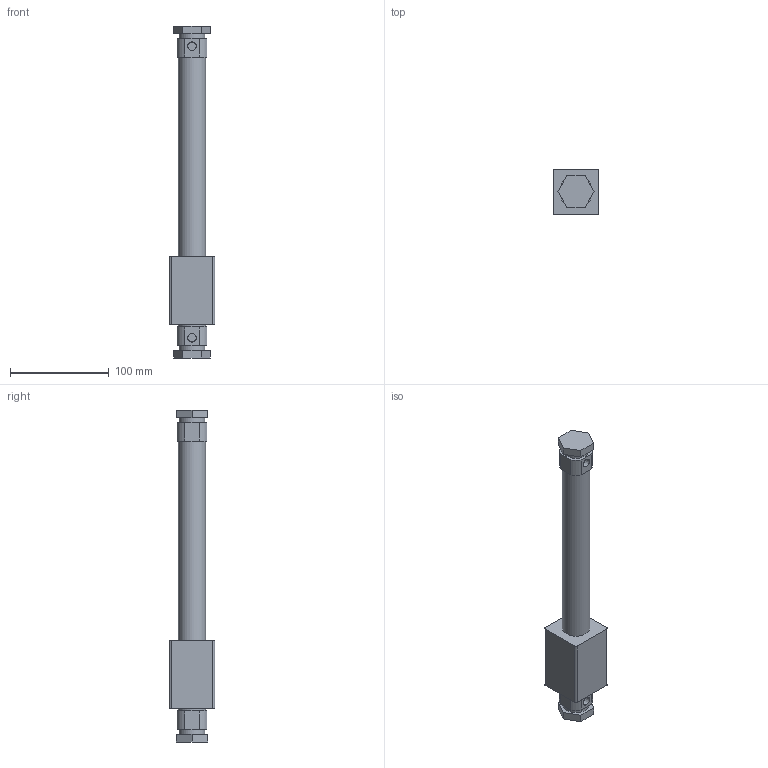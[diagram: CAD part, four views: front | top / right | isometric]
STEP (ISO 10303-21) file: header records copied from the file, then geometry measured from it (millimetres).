
FILE_DESCRIPTION( ( 'STEP AP214' ), '1' );
FILE_NAME( 'C:/Users/EMC02301/Desktop/RU0638 ESW图纸/ESW25x200.stp', '2026-07-27T11:41:09', ( 'License CC BY-ND 4.0' ), ( 'CADENAS' ), ' ', 'PARTsolutions', ' ' );
FILE_SCHEMA( ( 'AUTOMOTIVE_DESIGN { 1 0 10303 214 1 1 1 1 }' ) );
Length unit declared in the file: millimetre
Products named in the file (3): ESW25x200(0); _ESW25x200(0_dummy).boby; _ESW25x200(0_dummy).rod
Assembly tree (2 placements, depth 2):
  ESW25x200(0)
    _ESW25x200(0_dummy).boby
    _ESW25x200(0_dummy).rod
Bounding box: 46 x 46 x 337 mm (x, y, z)
Volume: 319987.3 mm3; surface area: 56334 mm2
Topology: 2 solids, 2 shells, 70 faces, 156 edges, 102 vertices
Faces by surface type: plane 40, cylinder 20, cone 10
Full cylindrical faces by diameter (mm): 4.134 x4, 26 x2, 27.8 x2
Entity records: 2454 total; most frequent: DIRECTION 334, CARTESIAN_POINT 309, ORIENTED_EDGE 272, EDGE_CURVE 136, AXIS2_PLACEMENT_3D 125, EDGE_LOOP 102, VERTEX_POINT 100, LINE 84
